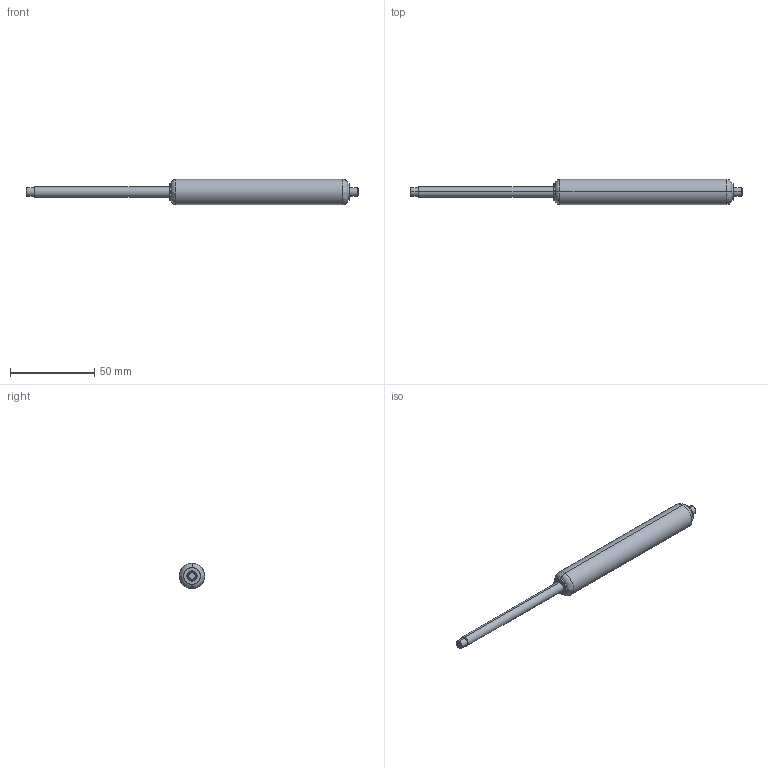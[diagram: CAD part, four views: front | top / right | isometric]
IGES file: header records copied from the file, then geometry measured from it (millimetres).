
Start section: SolidWorks IGES file using analytic representation for surfaces
Bounding box: 197 x 15 x 15 mm (x, y, z)
Surface area: 6896 mm2 (no closed solid volume)
Topology: 0 solids, 0 shells, 25 faces, 336 edges, 336 vertices
Faces by surface type: revolution 16, bspline 9
